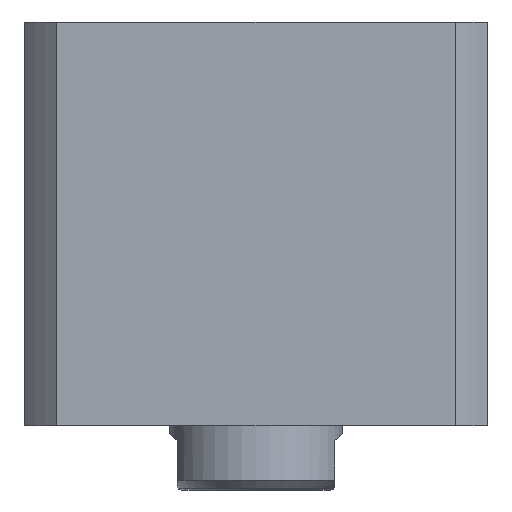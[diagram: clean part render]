
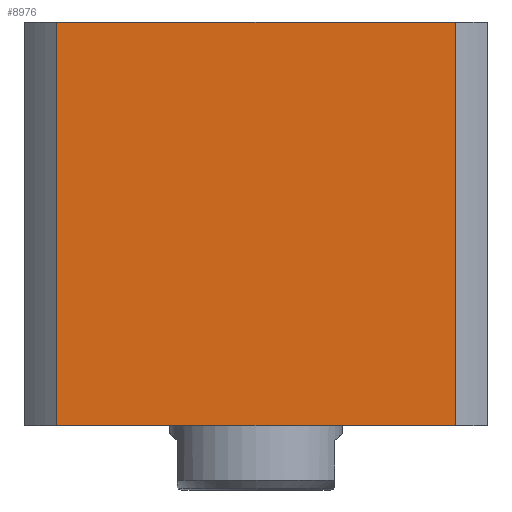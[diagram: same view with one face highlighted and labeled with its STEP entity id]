
A CAD part, front view. The second image highlights one B-rep face of the part: STEP entity #8976.
In plain terms, the highlighted planar face has unit normal (0, -1, 0) as drawn and (0, 1, 0) by its records, which use the part's own axes.
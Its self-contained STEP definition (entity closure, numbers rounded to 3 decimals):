
#57 = CARTESIAN_POINT ( 'NONE',  ( 40.435, 47., 82. ) ) ;
#370 = DIRECTION ( 'NONE',  ( 0., 0., 1. ) ) ;
#552 = CARTESIAN_POINT ( 'NONE',  ( -47., 47., 82. ) ) ;
#633 = CARTESIAN_POINT ( 'NONE',  ( 40.435, 47., 0. ) ) ;
#1198 = DIRECTION ( 'NONE',  ( 0., -1., 0. ) ) ;
#1283 = VERTEX_POINT ( 'NONE', #633 ) ;
#1590 = VECTOR ( 'NONE', #17163, 1000. ) ;
#1772 = ORIENTED_EDGE ( 'NONE', *, *, #7843, .F. ) ;
#2056 = EDGE_CURVE ( 'NONE', #1283, #15344, #7703, .T. ) ;
#2332 = EDGE_CURVE ( 'NONE', #15344, #11974, #6141, .T. ) ;
#2475 = VECTOR ( 'NONE', #8937, 1000. ) ;
#2625 = ORIENTED_EDGE ( 'NONE', *, *, #4492, .T. ) ;
#2862 = ORIENTED_EDGE ( 'NONE', *, *, #2056, .F. ) ;
#3923 = PLANE ( 'NONE',  #13742 ) ;
#4492 = EDGE_CURVE ( 'NONE', #1283, #10737, #15778, .T. ) ;
#5066 = DIRECTION ( 'NONE',  ( 0., 0., -1. ) ) ;
#5337 = EDGE_LOOP ( 'NONE', ( #2862, #2625, #1772, #14923 ) ) ;
#6141 = LINE ( 'NONE', #552, #2475 ) ;
#6626 = CARTESIAN_POINT ( 'NONE',  ( -47., 47., 82. ) ) ;
#7703 = LINE ( 'NONE', #11390, #14115 ) ;
#7843 = EDGE_CURVE ( 'NONE', #11974, #10737, #13769, .T. ) ;
#8937 = DIRECTION ( 'NONE',  ( -1., 0., 0. ) ) ;
#8976 = ADVANCED_FACE ( 'NONE', ( #9470 ), #3923, .F. ) ;
#9470 = FACE_OUTER_BOUND ( 'NONE', #5337, .T. ) ;
#10094 = VECTOR ( 'NONE', #5066, 1000. ) ;
#10714 = CARTESIAN_POINT ( 'NONE',  ( -40.435, 47., 82. ) ) ;
#10737 = VERTEX_POINT ( 'NONE', #16025 ) ;
#10811 = DIRECTION ( 'NONE',  ( 0., 0., -1. ) ) ;
#11390 = CARTESIAN_POINT ( 'NONE',  ( 40.435, 47., -218. ) ) ;
#11974 = VERTEX_POINT ( 'NONE', #10714 ) ;
#13285 = CARTESIAN_POINT ( 'NONE',  ( -40.435, 47., -218. ) ) ;
#13742 = AXIS2_PLACEMENT_3D ( 'NONE', #6626, #1198, #10811 ) ;
#13769 = LINE ( 'NONE', #13285, #10094 ) ;
#14115 = VECTOR ( 'NONE', #370, 1000. ) ;
#14923 = ORIENTED_EDGE ( 'NONE', *, *, #2332, .F. ) ;
#15344 = VERTEX_POINT ( 'NONE', #57 ) ;
#15778 = LINE ( 'NONE', #16566, #1590 ) ;
#16025 = CARTESIAN_POINT ( 'NONE',  ( -40.435, 47., 0. ) ) ;
#16566 = CARTESIAN_POINT ( 'NONE',  ( -47., 47., 0. ) ) ;
#17163 = DIRECTION ( 'NONE',  ( -1., 0., 0. ) ) ;
